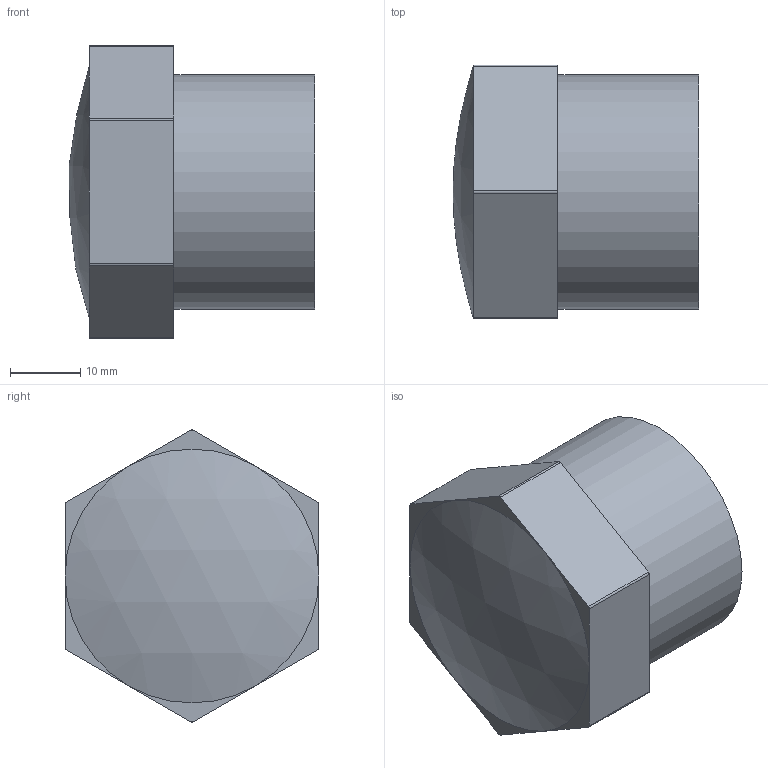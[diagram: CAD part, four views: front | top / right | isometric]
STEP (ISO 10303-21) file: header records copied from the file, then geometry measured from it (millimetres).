
FILE_DESCRIPTION(/* description */ ('PLASSON THREADED PLUG PVC 1"'),/* implementation_level */ '2;1');
FILE_NAME(/* name */ 'C:\Dropbox\KIMPROJECTS-Inventor\99-16-3568-Processing\PVC Catalog 2017\051701\051701010.ipt.stp',/* time_stamp */ '2017-12-07T16:01:16+02:00',/* author */ ('KIM'),/* organization */ (''),/* preprocessor_version */ 'ST-DEVELOPER v15.6',/* originating_system */ 'Autodesk Inventor 2015',/* authorisation */ '');
FILE_SCHEMA (('AUTOMOTIVE_DESIGN { 1 0 10303 214 3 1 1 }'));
Length unit declared in the file: millimetre
Products named in the file (1): 051701010
Bounding box: 34.88 x 36 x 41.46 mm (x, y, z)
Volume: 18221.4 mm3; surface area: 7914.7 mm2
Topology: 1 solids, 1 shells, 24 faces, 54 edges, 34 vertices
Faces by surface type: plane 14, cylinder 8, sphere 2
Full cylindrical faces by diameter (mm): 26.599 x1, 33.249 x1
Entity records: 686 total; most frequent: DIRECTION 124, CARTESIAN_POINT 111, ORIENTED_EDGE 104, EDGE_CURVE 52, AXIS2_PLACEMENT_3D 47, VERTEX_POINT 34, LINE 30, VECTOR 30
